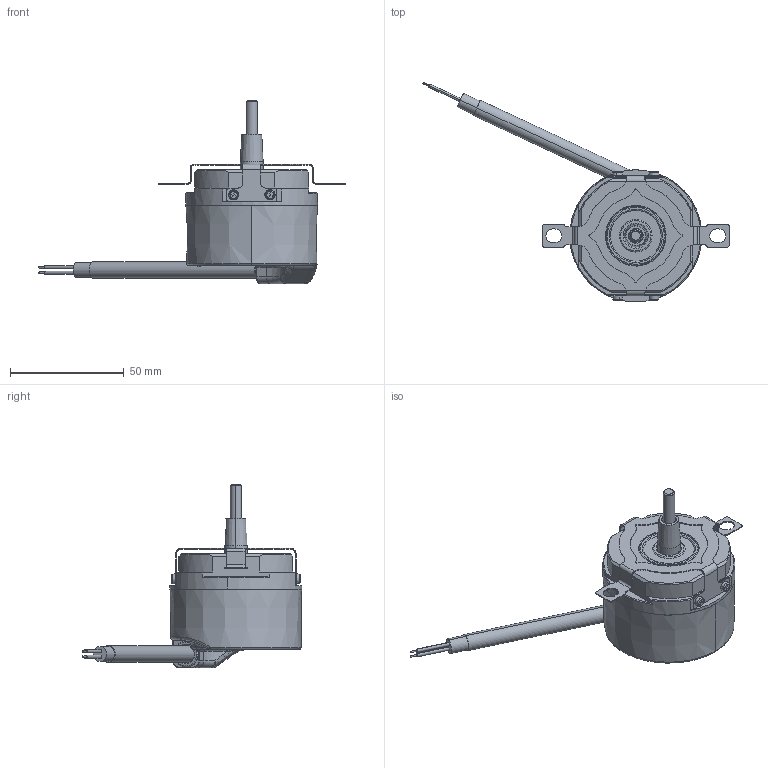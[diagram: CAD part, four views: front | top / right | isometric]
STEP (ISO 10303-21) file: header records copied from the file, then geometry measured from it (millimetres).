
FILE_DESCRIPTION (( 'STEP AP214' ), '1' );
FILE_NAME ('8.5873.GKXX.XXXX.STEP', '2015-12-21T12:42:13', ( 'LauferA' ), ( 'Microsoft' ), 'SwSTEP 2.0', 'SolidWorks 2013', '' );
FILE_SCHEMA (( 'AUTOMOTIVE_DESIGN' ));
Length unit declared in the file: millimetre
Products named in the file (1): 8.5873.GKXX.XXXX
Bounding box: 134.47 x 96.56 x 80.5 mm (x, y, z)
Volume: 56067.1 mm3; surface area: 50133 mm2
Topology: 15 solids, 15 shells, 1972 faces, 4691 edges, 2792 vertices
Faces by surface type: cylinder 622, bspline 505, plane 414, torus 222, cone 187, sphere 22
Entity records: 93784 total; most frequent: CARTESIAN_POINT 29908, ORIENTED_EDGE 9234, DIRECTION 8346, EDGE_CURVE 4617, AXIS2_PLACEMENT_3D 3486, VERTEX_POINT 2792, EDGE_LOOP 2141, CIRCLE 2018
